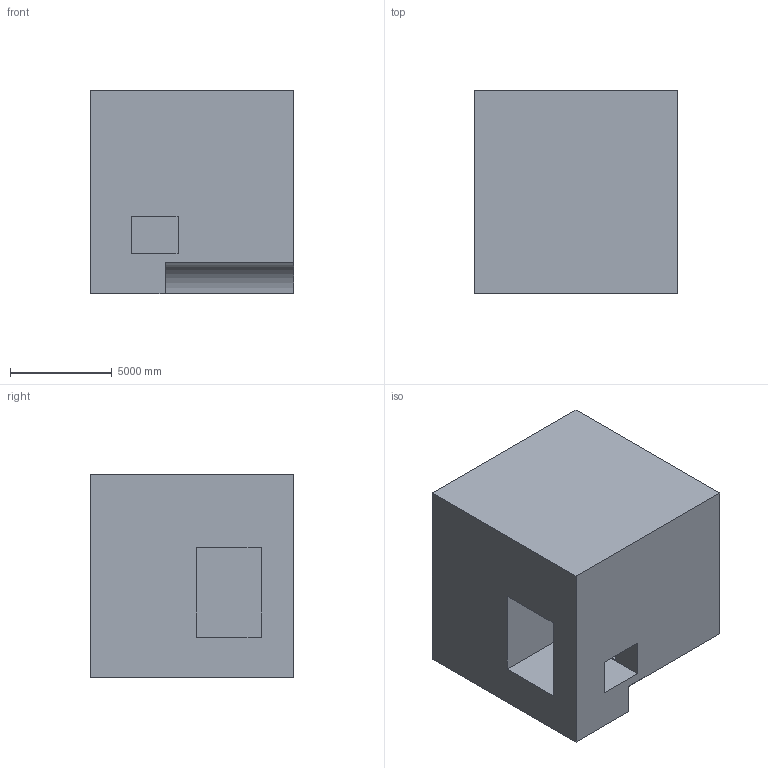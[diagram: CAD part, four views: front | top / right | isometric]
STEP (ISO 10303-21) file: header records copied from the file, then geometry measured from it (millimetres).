
FILE_DESCRIPTION (( 'STEP AP203' ), '1' );
FILE_NAME ('1213.STEP', '2022-08-18T13:13:03', ( 'user' ), ( '' ), 'SwSTEP 2.0', 'SolidWorks 2021', '' );
FILE_SCHEMA (( 'CONFIG_CONTROL_DESIGN' ));
Length unit declared in the file: centimetre
Products named in the file (1): 1213
Bounding box: 10000 x 10000 x 10000 mm (x, y, z)
Volume: 918693743896.7 mm3; surface area: 669034839.7 mm2
Topology: 1 solids, 1 shells, 18 faces, 48 edges, 32 vertices
Faces by surface type: plane 17, cylinder 1
Entity records: 635 total; most frequent: CARTESIAN_POINT 99, ORIENTED_EDGE 96, DIRECTION 88, EDGE_CURVE 48, LINE 46, VECTOR 46, VERTEX_POINT 32, AXIS2_PLACEMENT_3D 21
